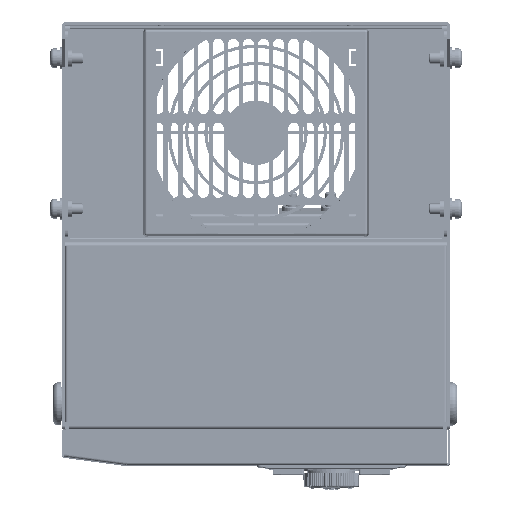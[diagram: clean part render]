
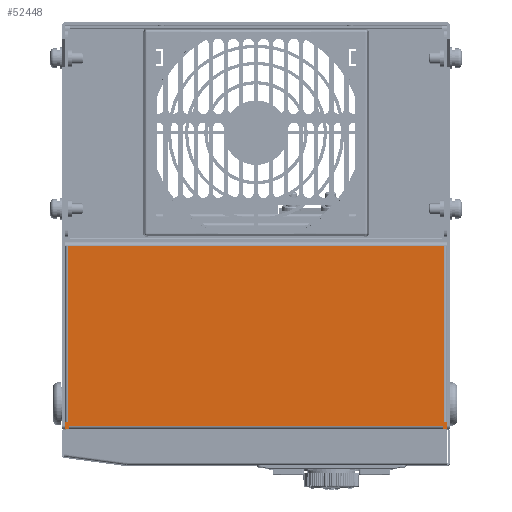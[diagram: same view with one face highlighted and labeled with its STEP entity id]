
A CAD part, top view. The second image highlights one B-rep face of the part: STEP entity #52448.
In plain terms, the highlighted planar face has unit normal (0, 0, 1).
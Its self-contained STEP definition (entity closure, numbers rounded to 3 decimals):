
#48139=DIRECTION('',(1.,0.,0.));
#48140=VECTOR('',#48139,174.7);
#48141=CARTESIAN_POINT('',(-87.35,9.5,123.7));
#48142=LINE('',#48141,#48140);
#48155=DIRECTION('',(0.,1.,0.));
#48156=VECTOR('',#48155,3.);
#48157=CARTESIAN_POINT('',(-88.75,91.6,123.7));
#48158=LINE('',#48157,#48156);
#48159=DIRECTION('',(1.,0.,0.));
#48160=VECTOR('',#48159,2.);
#48161=CARTESIAN_POINT('',(-88.75,94.6,123.7));
#48162=LINE('',#48161,#48160);
#48163=DIRECTION('',(0.,-1.,0.));
#48164=VECTOR('',#48163,1.4);
#48165=CARTESIAN_POINT('',(-86.75,94.6,123.7));
#48166=LINE('',#48165,#48164);
#48167=DIRECTION('',(1.,0.,0.));
#48168=VECTOR('',#48167,2.);
#48169=CARTESIAN_POINT('',(86.75,94.6,123.7));
#48170=LINE('',#48169,#48168);
#48171=DIRECTION('',(0.,-1.,0.));
#48172=VECTOR('',#48171,3.);
#48173=CARTESIAN_POINT('',(88.75,94.6,123.7));
#48174=LINE('',#48173,#48172);
#48175=DIRECTION('',(-1.,0.,0.));
#48176=VECTOR('',#48175,1.4);
#48177=CARTESIAN_POINT('',(88.75,91.6,123.7));
#48178=LINE('',#48177,#48176);
#48191=DIRECTION('',(1.,0.,0.));
#48192=VECTOR('',#48191,1.4);
#48193=CARTESIAN_POINT('',(-88.75,91.6,123.7));
#48194=LINE('',#48193,#48192);
#48275=DIRECTION('',(0.,-1.,0.));
#48276=VECTOR('',#48275,82.1);
#48277=CARTESIAN_POINT('',(-87.35,91.6,123.7));
#48278=LINE('',#48277,#48276);
#48363=DIRECTION('',(0.,1.,0.));
#48364=VECTOR('',#48363,82.1);
#48365=CARTESIAN_POINT('',(87.35,9.5,123.7));
#48366=LINE('',#48365,#48364);
#48465=DIRECTION('',(0.,-1.,0.));
#48466=VECTOR('',#48465,1.4);
#48467=CARTESIAN_POINT('',(86.75,94.6,123.7));
#48468=LINE('',#48467,#48466);
#48487=DIRECTION('',(-1.,0.,0.));
#48488=VECTOR('',#48487,173.5);
#48489=CARTESIAN_POINT('',(86.75,93.2,123.7));
#48490=LINE('',#48489,#48488);
#50277=CARTESIAN_POINT('',(-87.35,9.5,123.7));
#50278=CARTESIAN_POINT('',(87.35,9.5,123.7));
#50279=VERTEX_POINT('',#50277);
#50280=VERTEX_POINT('',#50278);
#50285=CARTESIAN_POINT('',(-88.75,91.6,123.7));
#50286=CARTESIAN_POINT('',(-88.75,94.6,123.7));
#50287=VERTEX_POINT('',#50285);
#50288=VERTEX_POINT('',#50286);
#50289=CARTESIAN_POINT('',(-86.75,94.6,123.7));
#50290=VERTEX_POINT('',#50289);
#50291=CARTESIAN_POINT('',(-86.75,93.2,123.7));
#50292=VERTEX_POINT('',#50291);
#50293=CARTESIAN_POINT('',(86.75,93.2,123.7));
#50294=VERTEX_POINT('',#50293);
#50295=CARTESIAN_POINT('',(86.75,94.6,123.7));
#50296=VERTEX_POINT('',#50295);
#50297=CARTESIAN_POINT('',(88.75,94.6,123.7));
#50298=VERTEX_POINT('',#50297);
#50299=CARTESIAN_POINT('',(88.75,91.6,123.7));
#50300=VERTEX_POINT('',#50299);
#50301=CARTESIAN_POINT('',(87.35,91.6,123.7));
#50302=VERTEX_POINT('',#50301);
#50303=CARTESIAN_POINT('',(-87.35,91.6,123.7));
#50304=VERTEX_POINT('',#50303);
#52418=CARTESIAN_POINT('',(88.75,8.1,123.7));
#52419=DIRECTION('',(0.,0.,1.));
#52420=DIRECTION('',(1.,0.,0.));
#52421=AXIS2_PLACEMENT_3D('',#52418,#52419,#52420);
#52422=PLANE('',#52421);
#52424=ORIENTED_EDGE('',*,*,#52423,.T.);
#52426=ORIENTED_EDGE('',*,*,#52425,.T.);
#52428=ORIENTED_EDGE('',*,*,#52427,.T.);
#52430=ORIENTED_EDGE('',*,*,#52429,.F.);
#52432=ORIENTED_EDGE('',*,*,#52431,.F.);
#52434=ORIENTED_EDGE('',*,*,#52433,.T.);
#52436=ORIENTED_EDGE('',*,*,#52435,.T.);
#52438=ORIENTED_EDGE('',*,*,#52437,.T.);
#52440=ORIENTED_EDGE('',*,*,#52439,.F.);
#52441=ORIENTED_EDGE('',*,*,#52397,.F.);
#52443=ORIENTED_EDGE('',*,*,#52442,.F.);
#52445=ORIENTED_EDGE('',*,*,#52444,.F.);
#52446=EDGE_LOOP('',(#52424,#52426,#52428,#52430,#52432,#52434,#52436,#52438,
#52440,#52441,#52443,#52445));
#52447=FACE_OUTER_BOUND('',#52446,.F.);
#52397=EDGE_CURVE('',#50279,#50280,#48142,.T.);
#52423=EDGE_CURVE('',#50287,#50288,#48158,.T.);
#52425=EDGE_CURVE('',#50288,#50290,#48162,.T.);
#52427=EDGE_CURVE('',#50290,#50292,#48166,.T.);
#52429=EDGE_CURVE('',#50294,#50292,#48490,.T.);
#52431=EDGE_CURVE('',#50296,#50294,#48468,.T.);
#52433=EDGE_CURVE('',#50296,#50298,#48170,.T.);
#52435=EDGE_CURVE('',#50298,#50300,#48174,.T.);
#52437=EDGE_CURVE('',#50300,#50302,#48178,.T.);
#52439=EDGE_CURVE('',#50280,#50302,#48366,.T.);
#52442=EDGE_CURVE('',#50304,#50279,#48278,.T.);
#52444=EDGE_CURVE('',#50287,#50304,#48194,.T.);
#52448=ADVANCED_FACE('',(#52447),#52422,.T.);
